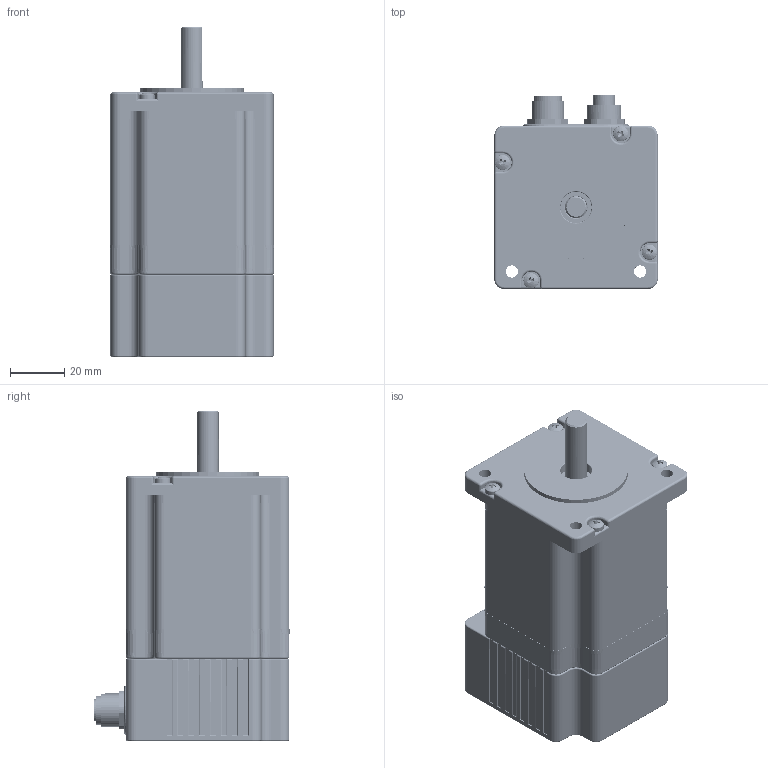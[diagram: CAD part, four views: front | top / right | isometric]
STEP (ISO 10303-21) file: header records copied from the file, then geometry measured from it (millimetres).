
FILE_DESCRIPTION (( 'STEP AP214' ), '1' );
FILE_NAME ('M60SH65-TO0512P24C.STEP', '2025-06-13T14:17:14', ( '' ), ( '' ), 'SwSTEP 2.0', 'SolidWorks 2019', '' );
FILE_SCHEMA (( 'AUTOMOTIVE_DESIGN' ));
Length unit declared in the file: millimetre
Products named in the file (1): M60SH65-TO0512P24C
Bounding box: 60.19 x 71.7 x 121.3 mm (x, y, z)
Volume: 174021.5 mm3; surface area: 95562.5 mm2
Topology: 20 solids, 20 shells, 4860 faces, 12433 edges, 7801 vertices
Faces by surface type: plane 1662, cylinder 1441, torus 606, bspline 570, cone 512, sphere 69
Entity records: 235325 total; most frequent: CARTESIAN_POINT 65920, ORIENTED_EDGE 24710, DIRECTION 23756, EDGE_CURVE 12355, AXIS2_PLACEMENT_3D 8987, VERTEX_POINT 7801, LINE 5782, VECTOR 5782
